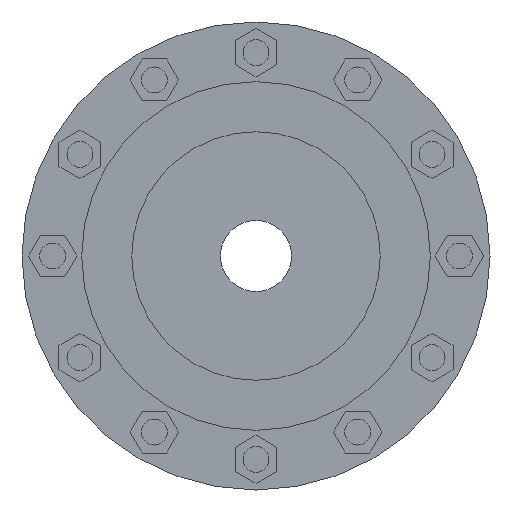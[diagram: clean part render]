
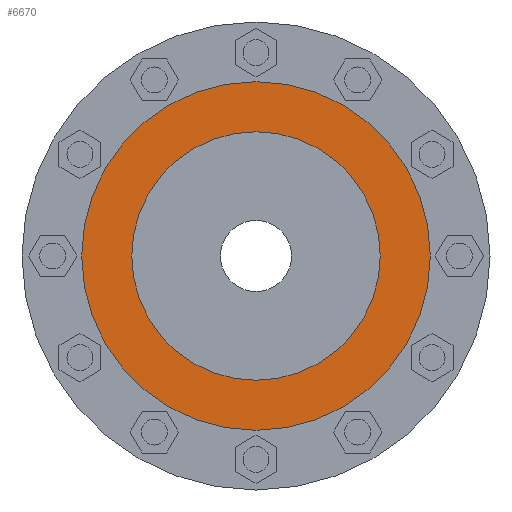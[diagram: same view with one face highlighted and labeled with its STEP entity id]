
A CAD part, left-side view. The second image highlights one B-rep face of the part: STEP entity #6670.
In plain terms, the highlighted planar face has unit normal (-1, 0, 0).
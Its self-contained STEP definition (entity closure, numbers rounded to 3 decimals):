
#1293=CARTESIAN_POINT('',(-88.5,0.,0.));
#1294=DIRECTION('',(-1.,0.,0.));
#1295=DIRECTION('',(0.,1.,0.));
#1296=AXIS2_PLACEMENT_3D('',#1293,#1294,#1295);
#1298=CARTESIAN_POINT('',(-88.5,0.,0.));
#1299=DIRECTION('',(1.,0.,0.));
#1300=DIRECTION('',(0.,1.,0.));
#1301=AXIS2_PLACEMENT_3D('',#1298,#1299,#1300);
#1303=CARTESIAN_POINT('',(-88.5,0.,0.));
#1304=DIRECTION('',(1.,0.,0.));
#1305=DIRECTION('',(0.,1.,0.));
#1306=AXIS2_PLACEMENT_3D('',#1303,#1304,#1305);
#1308=CARTESIAN_POINT('',(-88.5,0.,0.));
#1309=DIRECTION('',(1.,0.,0.));
#1310=DIRECTION('',(0.,-1.,0.));
#1311=AXIS2_PLACEMENT_3D('',#1308,#1309,#1310);
#4362=CARTESIAN_POINT('',(-88.5,54.,0.));
#4364=VERTEX_POINT('',#4362);
#4374=CARTESIAN_POINT('',(-88.5,-54.,0.));
#4376=VERTEX_POINT('',#4374);
#5746=CARTESIAN_POINT('',(-88.5,38.5,0.));
#5748=VERTEX_POINT('',#5746);
#5754=CARTESIAN_POINT('',(-88.5,-38.5,0.));
#5756=VERTEX_POINT('',#5754);
#6655=CARTESIAN_POINT('',(-88.5,0.,0.));
#6656=DIRECTION('',(1.,0.,0.));
#6657=DIRECTION('',(0.,-1.,0.));
#6658=AXIS2_PLACEMENT_3D('',#6655,#6656,#6657);
#6659=PLANE('',#6658);
#6660=ORIENTED_EDGE('',*,*,#6648,.F.);
#6661=ORIENTED_EDGE('',*,*,#6637,.T.);
#6662=EDGE_LOOP('',(#6660,#6661));
#6663=FACE_OUTER_BOUND('',#6662,.F.);
#6665=ORIENTED_EDGE('',*,*,#6664,.F.);
#6667=ORIENTED_EDGE('',*,*,#6666,.F.);
#6668=EDGE_LOOP('',(#6665,#6667));
#6669=FACE_BOUND('',#6668,.F.);
#6670=ADVANCED_FACE('',(#6663,#6669),#6659,.F.);
#1297=CIRCLE('',#1296,54.);
#1302=CIRCLE('',#1301,54.);
#1307=CIRCLE('',#1306,38.5);
#1312=CIRCLE('',#1311,38.5);
#6637=EDGE_CURVE('',#4364,#4376,#1302,.T.);
#6648=EDGE_CURVE('',#4364,#4376,#1297,.T.);
#6664=EDGE_CURVE('',#5748,#5756,#1307,.T.);
#6666=EDGE_CURVE('',#5756,#5748,#1312,.T.);
